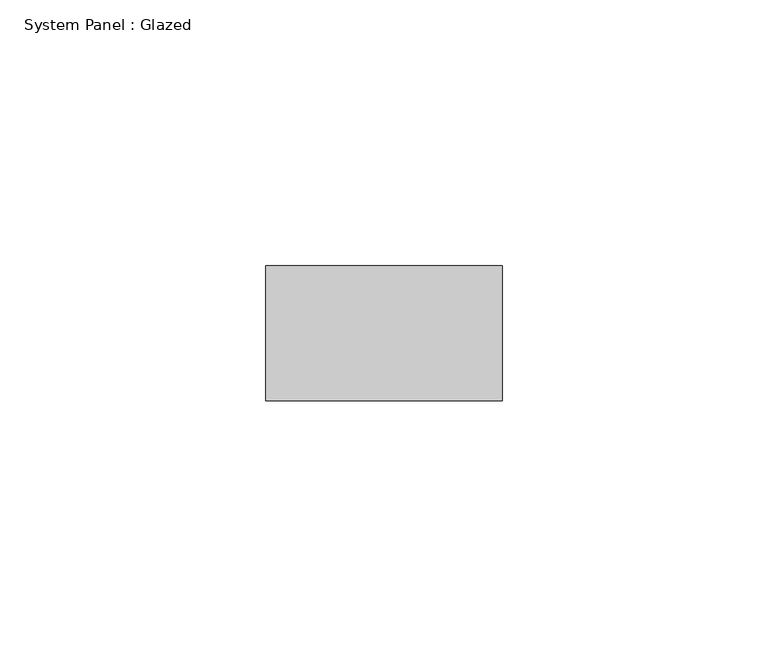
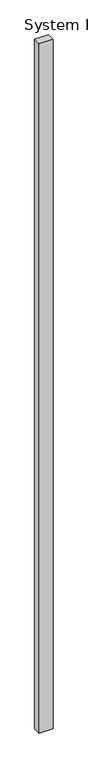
"""IFC4 building model written with IfcOpenShell, lengths in millimetres: plate geometry, System Panel : Glazed."""

import ifcopenshell
import ifcopenshell.guid

model = None  # the IFC model being written
_history = None  # IfcOwnerHistory: only IFC2X3 demands one
_inside = {}  # id of a spatial element -> (the spatial element, [elements in it])
_under = {}  # id of a project, library or spatial element -> (it, [spatial elements below it])
_declared = {}  # id of a project -> (the project, [libraries it declares])
_typed = {}  # id of a type object -> (the type object, [elements of that type])
_made_of = {}  # id of a material, layer set ... -> (it, [elements and type objects made of it])


def new_model(schema):
    """Start an empty IFC model of exactly this schema.

    Asked for "IFC4X3", IfcOpenShell would pick the latest addendum, in which some entities
    have other attributes; the version numbers below select the first issue.
    IFC2X3 requires an IfcOwnerHistory on every rooted entity: one is made here for all.
    """
    global model, _history
    if schema == "IFC4X3":
        model = ifcopenshell.file(schema_version=(4, 3, 0, 0))
    else:
        model = ifcopenshell.file(schema=schema)
    _inside.clear()
    _under.clear()
    _declared.clear()
    _typed.clear()
    _made_of.clear()
    _history = None
    if model.schema == "IFC2X3":
        org = make("IfcOrganization", Name="unknown")
        user = make(
            "IfcPersonAndOrganization",
            ThePerson=make("IfcPerson", FamilyName="unknown"),
            TheOrganization=org,
        )
        app = make(
            "IfcApplication",
            ApplicationDeveloper=org,
            Version="unknown",
            ApplicationFullName="unknown",
            ApplicationIdentifier="unknown",
        )
        _history = make(
            "IfcOwnerHistory",
            OwningUser=user,
            OwningApplication=app,
            ChangeAction="ADDED",
            CreationDate=0,
        )
    return model


def make(cls, **values):
    """One entity of the class cls with the attributes given. An attribute that is None is left unset."""
    return model.create_entity(
        cls, **{name: value for name, value in values.items() if value is not None}
    )


def rooted(cls, **values):
    """An entity with a GlobalId (a new one), such as an element, a storey or a relation."""
    return make(cls, GlobalId=ifcopenshell.guid.new(), OwnerHistory=_history, **values)


def si_unit(unit_type, name, prefix=None):
    """IfcSIUnit, for example si_unit("LENGTHUNIT", "METRE", prefix="MILLI")."""
    return make("IfcSIUnit", UnitType=unit_type, Prefix=prefix, Name=name)


def assignment(units):
    """IfcUnitAssignment: the units of a project."""
    return None if units is None else make("IfcUnitAssignment", Units=units)


def point(xyz):
    """IfcCartesianPoint."""
    return None if xyz is None else make("IfcCartesianPoint", Coordinates=xyz)


def direction(xyz):
    """IfcDirection."""
    return None if xyz is None else make("IfcDirection", DirectionRatios=xyz)


def frame(location, z_axis=None, x_axis=None):
    """IfcAxis2Placement3D, a coordinate frame: its origin and axes. An axis left out is left unset."""
    return make(
        "IfcAxis2Placement3D",
        Location=point(location),
        Axis=direction(z_axis),
        RefDirection=direction(x_axis),
    )


def origin():
    """The frame at (0, 0, 0) with its axes left unset."""
    return frame((0.0, 0.0, 0.0))


def origin_with_axes():
    """The frame at (0, 0, 0) with the z axis (0, 0, 1) and the x axis (1, 0, 0) written out."""
    return frame((0.0, 0.0, 0.0), z_axis=(0.0, 0.0, 1.0), x_axis=(1.0, 0.0, 0.0))


def place(relative_to, where):
    """IfcLocalPlacement: puts the frame where relative to a parent placement (None: the world)."""
    return make(
        "IfcLocalPlacement", PlacementRelTo=relative_to, RelativePlacement=where
    )


def context(
    kind, dimensions, precision=None, world=None, true_north=None, identifier=None
):
    """IfcGeometricRepresentationContext, for example the 3D "Model" context."""
    return make(
        "IfcGeometricRepresentationContext",
        ContextIdentifier=identifier,
        ContextType=kind,
        CoordinateSpaceDimension=dimensions,
        Precision=precision,
        WorldCoordinateSystem=world,
        TrueNorth=true_north,
    )


def project(units=None, contexts=None):
    """IfcProject with its units and contexts."""
    return rooted(
        "IfcProject",
        Name="project",
        RepresentationContexts=contexts,
        UnitsInContext=assignment(units),
    )


def spatial(cls, under=None, at=None, **own):
    """A site, building, storey or space (cls), placed at a placement, below another one or the project."""
    s = rooted(cls, ObjectPlacement=at, **own)
    if under is not None:
        _under.setdefault(under.id(), (under, []))[1].append(s)
    return s


def polyline(points):
    """IfcPolyline through the points."""
    return make("IfcPolyline", Points=[point(p) for p in points])


def outline(outer, holes=None, kind="AREA"):
    """IfcArbitraryClosedProfileDef: a profile drawn as a closed curve; with holes, ...WithVoids."""
    if holes is None:
        return make("IfcArbitraryClosedProfileDef", ProfileType=kind, OuterCurve=outer)
    return make(
        "IfcArbitraryProfileDefWithVoids",
        ProfileType=kind,
        OuterCurve=outer,
        InnerCurves=holes,
    )


def extrude(swept, where, along, depth):
    """IfcExtrudedAreaSolid: the profile swept, set in the frame where, extruded along a direction by depth."""
    return make(
        "IfcExtrudedAreaSolid",
        SweptArea=swept,
        Position=where,
        ExtrudedDirection=direction(along),
        Depth=depth,
    )


def shape(context_of_items, identifier, shape_type, items):
    """IfcShapeRepresentation: the items that make up one representation, for example the "Body"."""
    return make(
        "IfcShapeRepresentation",
        ContextOfItems=context_of_items,
        RepresentationIdentifier=identifier,
        RepresentationType=shape_type,
        Items=items,
    )


def source(mapping_origin, context_of_items, identifier, shape_type, items):
    """IfcRepresentationMap: a shape defined once, which mapped items show again and again."""
    return make(
        "IfcRepresentationMap",
        MappingOrigin=mapping_origin,
        MappedRepresentation=shape(context_of_items, identifier, shape_type, items),
    )


def transform(
    local_origin,
    x_axis=None,
    y_axis=None,
    z_axis=None,
    scale=None,
    scale2=None,
    scale3=None,
    uniform=True,
):
    """IfcCartesianTransformationOperator3D, or its non-uniform kind. x_axis, y_axis, z_axis: its Axis1, 2, 3."""
    if uniform:
        return make(
            "IfcCartesianTransformationOperator3D",
            Axis1=direction(x_axis),
            Axis2=direction(y_axis),
            LocalOrigin=point(local_origin),
            Scale=scale,
            Axis3=direction(z_axis),
        )
    return make(
        "IfcCartesianTransformationOperator3DnonUniform",
        Axis1=direction(x_axis),
        Axis2=direction(y_axis),
        LocalOrigin=point(local_origin),
        Scale=scale,
        Axis3=direction(z_axis),
        Scale2=scale2,
        Scale3=scale3,
    )


def mapped(mapping_source, mapping_target):
    """IfcMappedItem: shows the shape of a source again, moved by a transform."""
    return make(
        "IfcMappedItem", MappingSource=mapping_source, MappingTarget=mapping_target
    )


def made_of(thing, what):
    """Note that an element or type object is made of a material, layer set ...; save() writes the relation."""
    if what is not None:
        _made_of.setdefault(what.id(), (what, []))[1].append(thing)
    return thing


def element(
    cls,
    number,
    at=None,
    inside=None,
    cuts=None,
    type_object=None,
    material=None,
    context=None,
    identifier="Body",
    shape_type=None,
    held_by="IfcProductDefinitionShape",
    body=None,
    shapes=None,
    **own,
):
    """One element of the class cls, such as IfcWall. Its Tag is "e" and its number.

    at: its placement. inside: the storey or other place that contains it. cuts: it is an
    opening in that element (IfcRelVoidsElement). A single representation is given by context,
    identifier, shape_type and body (its items); several are given by shapes. held_by: the class
    of the entity that holds the representations. save() writes the other relations.
    """
    e = rooted(cls, Tag="e%d" % number, ObjectPlacement=at, **own)
    if body is not None:
        shapes = [shape(context, identifier, shape_type, body)]
    if shapes is not None:
        e.Representation = make(held_by, Representations=shapes)
    if inside is not None:
        _inside.setdefault(inside.id(), (inside, []))[1].append(e)
    if cuts is not None:
        rooted(
            "IfcRelVoidsElement", RelatingBuildingElement=cuts, RelatedOpeningElement=e
        )
    if type_object is not None:
        _typed.setdefault(type_object.id(), (type_object, []))[1].append(e)
    return made_of(e, material)


def aggregate(whole, parts):
    """IfcRelAggregates: a whole, such as a stair, and the parts it consists of."""
    return rooted("IfcRelAggregates", RelatingObject=whole, RelatedObjects=parts)


def save(model, path):
    """Write the relations noted so far, then the file.

    IfcRelAggregates (storeys below a building ...), IfcRelContainedInSpatialStructure (elements
    in a storey), IfcRelDefinesByType, IfcRelAssociatesMaterial and IfcRelDeclares: one each for
    every whole, place, type object, material and project.
    """
    for whole, parts in _under.values():
        aggregate(whole, parts)
    for where, things in _inside.values():
        rooted(
            "IfcRelContainedInSpatialStructure",
            RelatedElements=things,
            RelatingStructure=where,
        )
    for kind, things in _typed.values():
        rooted("IfcRelDefinesByType", RelatedObjects=things, RelatingType=kind)
    for what, things in _made_of.values():
        rooted("IfcRelAssociatesMaterial", RelatedObjects=things, RelatingMaterial=what)
    for by, libraries in _declared.values():
        rooted("IfcRelDeclares", RelatingContext=by, RelatedDefinitions=libraries)
    model.write(path)


def system_panel_glazed_f3bffda8(model_context):
    return source(origin(), model_context, "Body", "SweptSolid", [
        extrude(outline(polyline([(22.225, 19.05), (-22.225, 19.05), (-22.225, 44.45), (22.225, 44.45), (22.225, 19.05)])), origin_with_axes(), (0.0, 0.0, 1.0), 2348.7093009),
    ])


if __name__ == "__main__":
    model = new_model("IFC4")
    model_context = context("Model", 3, world=origin())
    ifc_project = project(units=[si_unit("LENGTHUNIT", "METRE", prefix="MILLI")], contexts=[model_context])
    site = spatial("IfcSite", under=ifc_project)
    building = spatial("IfcBuilding", under=site)
    placement = place(None, origin())
    system_panel_glazed_shape = system_panel_glazed_f3bffda8(model_context)
    element("IfcPlate", 1, ObjectType="System Panel : Glazed", at=placement, inside=building, context=model_context, shape_type="MappedRepresentation", body=[
        mapped(system_panel_glazed_shape, transform((0.0, 0.0, 0.0), x_axis=(1.0, 0.0, 0.0), y_axis=(0.0, 1.0, 0.0), z_axis=(0.0, 0.0, 1.0))),
    ])
    save(model, "model.ifc")
